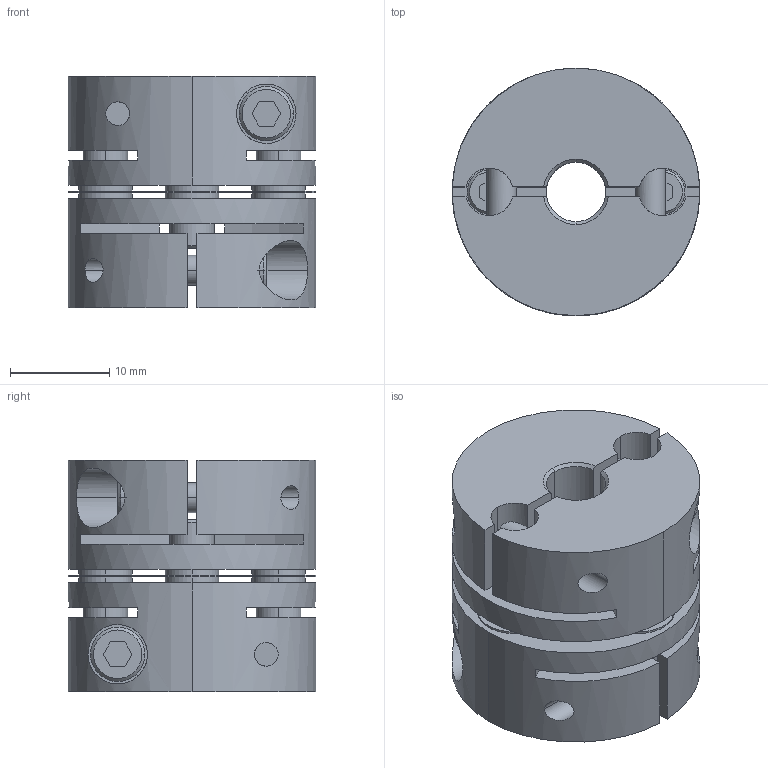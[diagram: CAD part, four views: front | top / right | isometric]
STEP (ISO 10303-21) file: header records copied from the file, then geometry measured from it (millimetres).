
FILE_DESCRIPTION((''),'2;1');
FILE_NAME('LAS-25C-6×8.stp','2011-08-10T10:18:27',(''),(''),'AutoCAD STEP 2000i','AutoCAD 2000i',', , ');
FILE_SCHEMA(('CONFIG_CONTROL_DESIGN'));
Length unit declared in the file: millimetre
Products named in the file (5): LAS-25C-6×6; 忣兜1; LA-2502-D06-1; LA-2502-D06; LAS25-ITA
Assembly tree (4 placements, depth 2):
  LAS-25C-6×6
    忣兜1
    LA-2502-D06-1
    LA-2502-D06
    LAS25-ITA
Bounding box: 25 x 25 x 23.4 mm (x, y, z)
Volume: 8649.3 mm3; surface area: 6898.1 mm2
Topology: 1 solids, 1 shells, 244 faces, 648 edges, 424 vertices
Faces by surface type: plane 112, cylinder 104, cone 28
Entity records: 8499 total; most frequent: CARTESIAN_POINT 2121, DIRECTION 1326, ORIENTED_EDGE 1296, EDGE_CURVE 648, AXIS2_PLACEMENT_3D 485, VERTEX_POINT 424, VECTOR 356, LINE 356
